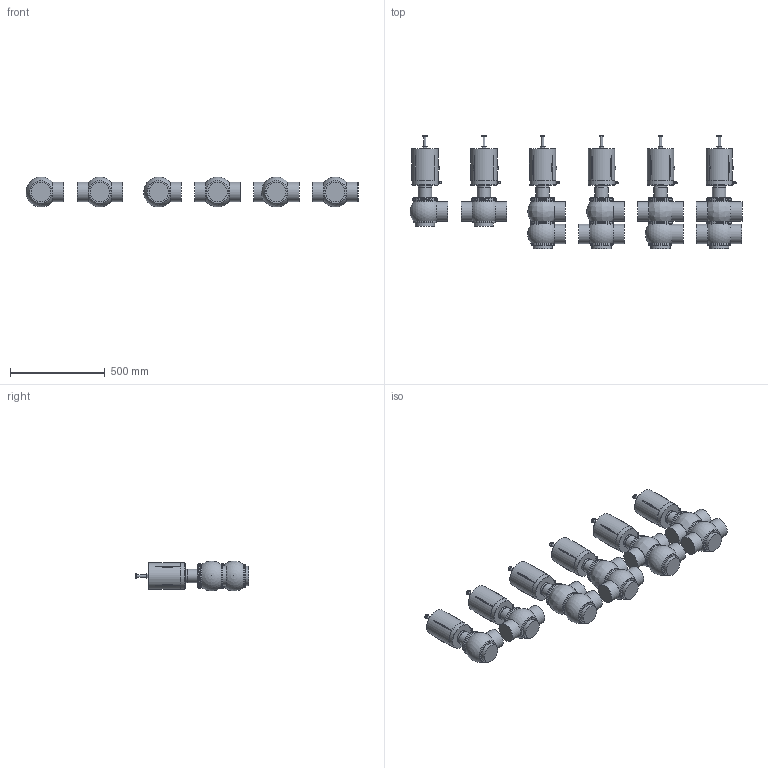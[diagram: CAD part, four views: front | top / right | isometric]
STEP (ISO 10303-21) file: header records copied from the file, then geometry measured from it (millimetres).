
FILE_DESCRIPTION((''),'2;1');
FILE_NAME('\\BV-SRV1\Ufficio tecnico\cad3d\PNEUMATICA\Ing1-1\pne bbzp e derivate\BBZS5\BBZS5-DN100-CIL134-SAL.iam.step','2009-10-19T10:18:17',(''),(''),'Autodesk Inventor 2010','Autodesk Inventor 2010','');
FILE_SCHEMA(('AUTOMOTIVE_DESIGN { 1 0 10303 214 1 1 1 1 }'));
Length unit declared in the file: millimetre
Products named in the file (7): BBZS5-DN100-CIL134-SAL; cil 134 tarabile; Assemblaggio-DN0100; COR-INF-L-SAL-DN100; COR-INF-T-SAL-DN100; COR-SUP-L-SAL-DN100; COR-SUP-T-SAL-DN100
Assembly tree (22 placements, depth 2):
  BBZS5-DN100-CIL134-SAL
    cil 134 tarabile  x6
    Assemblaggio-DN0100  x6
    COR-INF-L-SAL-DN100  x3
    COR-INF-T-SAL-DN100  x3
    COR-SUP-L-SAL-DN100  x2
    COR-SUP-T-SAL-DN100  x2
Bounding box: 1749 x 599.2 x 157.94 mm (x, y, z)
Volume: 46747925.9 mm3; surface area: 2158854.3 mm2
Topology: 22 solids, 28 shells, 1261 faces, 2922 edges, 1750 vertices
Faces by surface type: plane 488, cylinder 311, cone 266, sphere 78, bspline 70, torus 48
Full cylindrical faces by diameter (mm): 0 x4, 4.9 x6, 6 x12, 7 x6, 8.3 x6, 8.566 x18, 10 x6, 11 x6, 11.5 x6, 14 x6, 19.37 x6, 69 x6, 71 x6, 101.6 x21, 121 x26, 129 x20, 138 x6, 139.5 x6
Entity records: 7443 total; most frequent: CARTESIAN_POINT 2121, DIRECTION 1062, ORIENTED_EDGE 884, AXIS2_PLACEMENT_3D 453, EDGE_CURVE 442, EDGE_LOOP 355, VERTEX_POINT 311, FACE_OUTER_BOUND 244
